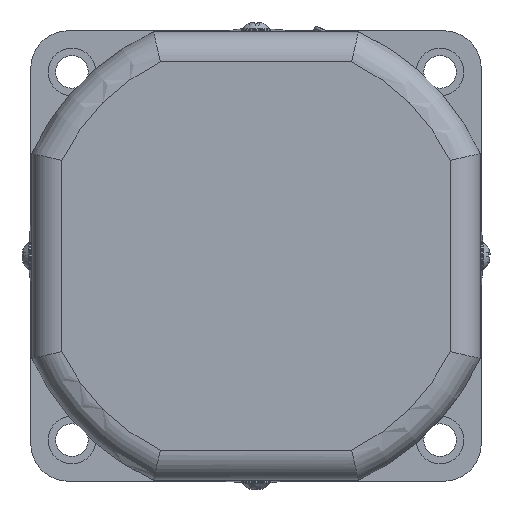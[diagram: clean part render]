
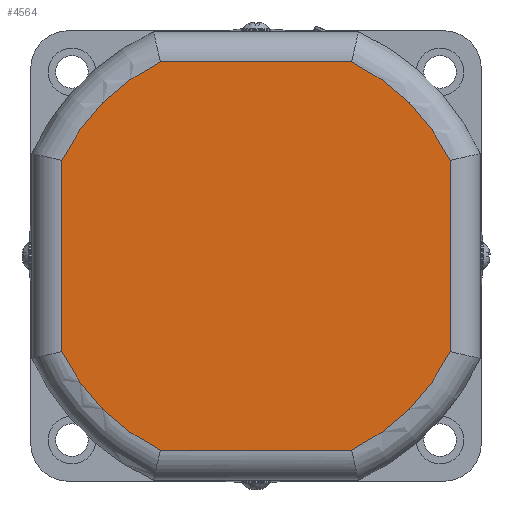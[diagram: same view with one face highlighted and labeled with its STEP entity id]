
A CAD part, left-side view. The second image highlights one B-rep face of the part: STEP entity #4564.
In plain terms, the highlighted planar face has unit normal (-1, 0, 0) as drawn and (0, 0, -1) by its records, which use the part's own axes.
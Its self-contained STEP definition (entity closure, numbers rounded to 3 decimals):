
#3897=CARTESIAN_POINT('',(38.8,-19.108,0.0));
#3898=VERTEX_POINT('',#3897);
#3925=CARTESIAN_POINT('',(19.108,-38.8,0.0));
#3926=VERTEX_POINT('',#3925);
#3944=CARTESIAN_POINT('',(0.0,0.0,0.0));
#3945=DIRECTION('',(0.0,0.0,1.0));
#3946=DIRECTION('',(0.707,-0.707,0.0));
#3947=AXIS2_PLACEMENT_3D('',#3944,#3945,#3946);
#3948=CIRCLE('',#3947,43.25);
#3949=EDGE_CURVE('',#3926,#3898,#3948,.T.);
#3961=CARTESIAN_POINT('',(-19.108,-38.8,0.0));
#3962=VERTEX_POINT('',#3961);
#3980=CARTESIAN_POINT('',(-19.108,-38.8,0.0));
#3981=DIRECTION('',(1.0,0.0,0.0));
#3982=VECTOR('',#3981,38.216);
#3983=LINE('',#3980,#3982);
#3984=EDGE_CURVE('',#3962,#3926,#3983,.T.);
#4003=CARTESIAN_POINT('',(38.8,19.108,0.0));
#4004=VERTEX_POINT('',#4003);
#4029=CARTESIAN_POINT('',(38.8,-19.108,0.0));
#4030=DIRECTION('',(0.0,1.0,0.0));
#4031=VECTOR('',#4030,38.216);
#4032=LINE('',#4029,#4031);
#4033=EDGE_CURVE('',#3898,#4004,#4032,.T.);
#4045=CARTESIAN_POINT('',(-38.8,-19.108,0.0));
#4046=VERTEX_POINT('',#4045);
#4064=CARTESIAN_POINT('',(0.0,0.0,0.0));
#4065=DIRECTION('',(0.0,0.0,1.0));
#4066=DIRECTION('',(-0.707,-0.707,0.0));
#4067=AXIS2_PLACEMENT_3D('',#4064,#4065,#4066);
#4068=CIRCLE('',#4067,43.25);
#4069=EDGE_CURVE('',#4046,#3962,#4068,.T.);
#4089=CARTESIAN_POINT('',(19.108,38.8,0.0));
#4090=VERTEX_POINT('',#4089);
#4116=CARTESIAN_POINT('',(0.0,0.0,0.0));
#4117=DIRECTION('',(0.0,0.0,1.0));
#4118=DIRECTION('',(0.707,0.707,0.0));
#4119=AXIS2_PLACEMENT_3D('',#4116,#4117,#4118);
#4120=CIRCLE('',#4119,43.25);
#4121=EDGE_CURVE('',#4004,#4090,#4120,.T.);
#4133=CARTESIAN_POINT('',(-38.8,19.108,0.0));
#4134=VERTEX_POINT('',#4133);
#4152=CARTESIAN_POINT('',(-38.8,19.108,0.0));
#4153=DIRECTION('',(0.0,-1.0,0.0));
#4154=VECTOR('',#4153,38.216);
#4155=LINE('',#4152,#4154);
#4156=EDGE_CURVE('',#4134,#4046,#4155,.T.);
#4173=CARTESIAN_POINT('',(-19.108,38.8,0.0));
#4174=VERTEX_POINT('',#4173);
#4201=CARTESIAN_POINT('',(19.108,38.8,0.0));
#4202=DIRECTION('',(-1.0,0.0,0.0));
#4203=VECTOR('',#4202,38.216);
#4204=LINE('',#4201,#4203);
#4205=EDGE_CURVE('',#4090,#4174,#4204,.T.);
#4216=CARTESIAN_POINT('',(0.0,0.0,0.0));
#4217=DIRECTION('',(0.0,0.0,1.0));
#4218=DIRECTION('',(-0.707,0.707,0.0));
#4219=AXIS2_PLACEMENT_3D('',#4216,#4217,#4218);
#4220=CIRCLE('',#4219,43.25);
#4221=EDGE_CURVE('',#4174,#4134,#4220,.T.);
#4549=CARTESIAN_POINT('',(0.,0.0,0.0));
#4550=DIRECTION('',(0.0,0.0,1.0));
#4551=DIRECTION('',(1.0,0.0,0.0));
#4552=AXIS2_PLACEMENT_3D('',#4549,#4550,#4551);
#4553=PLANE('',#4552);
#4554=ORIENTED_EDGE('',*,*,#4205,.F.);
#4555=ORIENTED_EDGE('',*,*,#4121,.F.);
#4556=ORIENTED_EDGE('',*,*,#4033,.F.);
#4557=ORIENTED_EDGE('',*,*,#3949,.F.);
#4558=ORIENTED_EDGE('',*,*,#3984,.F.);
#4559=ORIENTED_EDGE('',*,*,#4069,.F.);
#4560=ORIENTED_EDGE('',*,*,#4156,.F.);
#4561=ORIENTED_EDGE('',*,*,#4221,.F.);
#4562=EDGE_LOOP('',(#4554,#4555,#4556,#4557,#4558,#4559,#4560,#4561));
#4563=FACE_OUTER_BOUND('',#4562,.T.);
#4564=ADVANCED_FACE('',(#4563),#4553,.F.);
